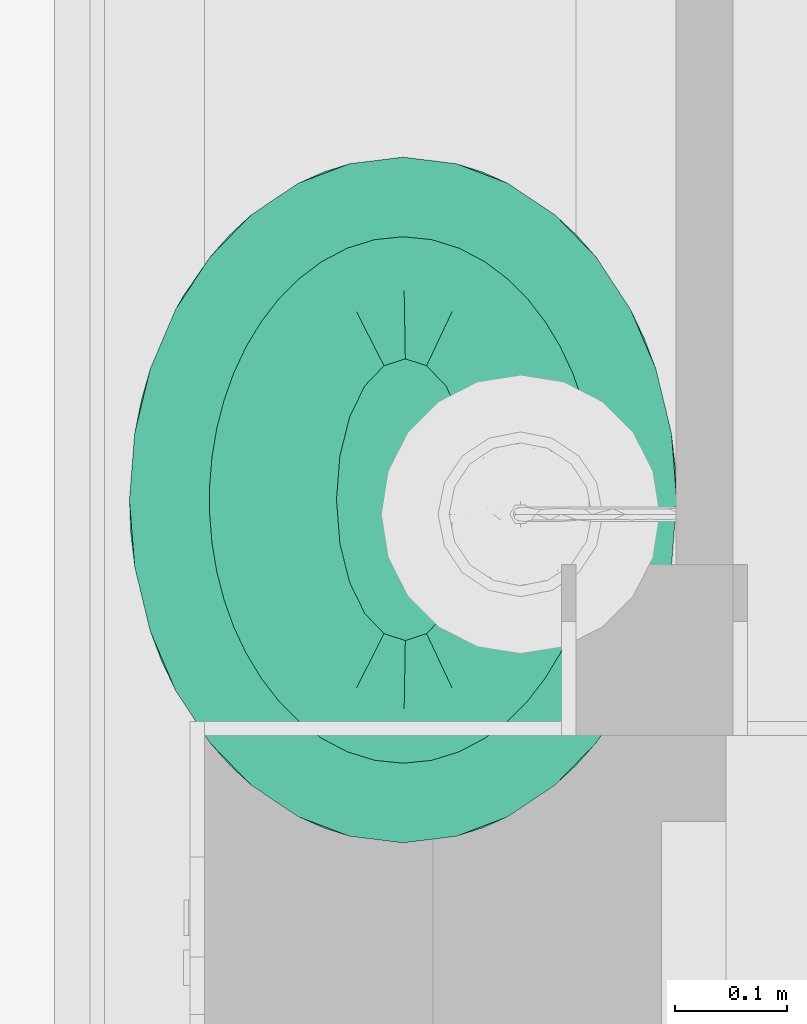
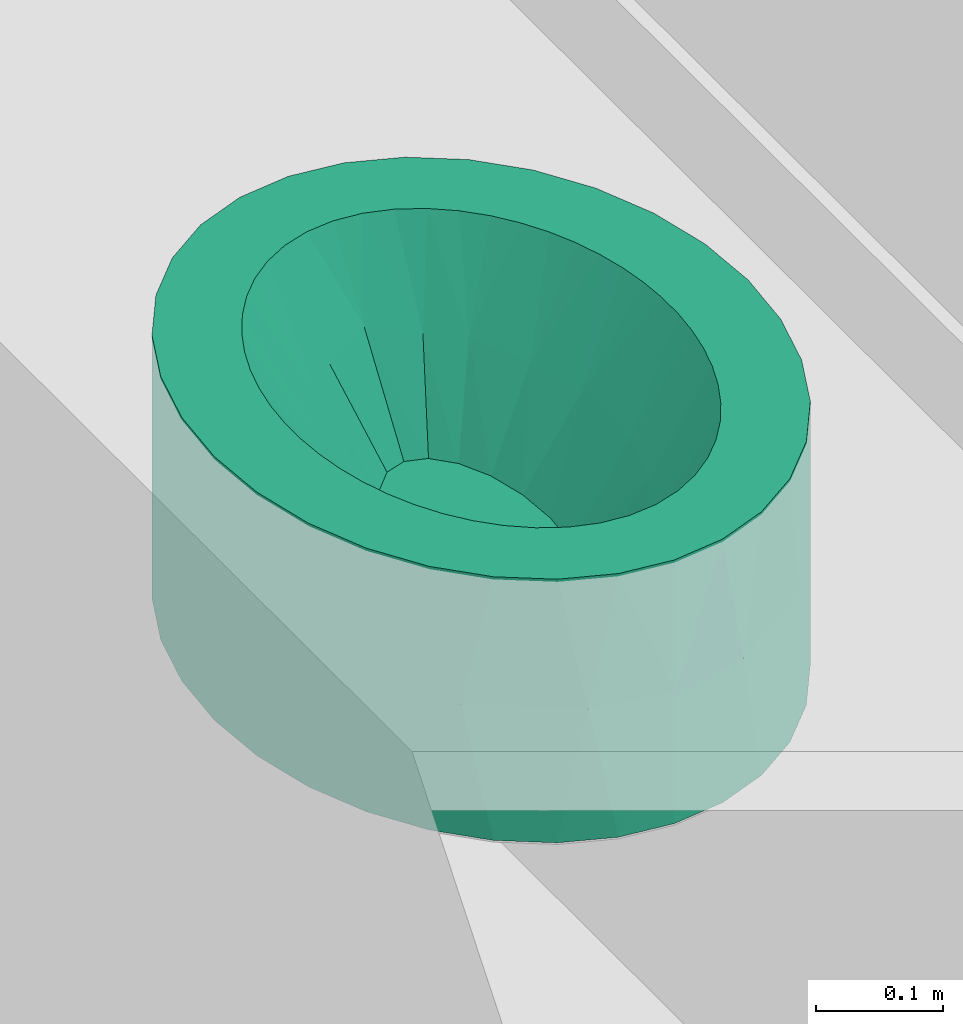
# One storey, part 53 of 81: 1 flow terminal.
"""IFC2X3 building model written with IfcOpenShell, lengths in feet."""

from ifc_helpers import new_model, entity, si_unit, converted_unit, derived_unit, direction, frame, origin, place, context, subcontext, project, spatial, faceted_brep, source, transform, mapped, material, type_object, type_shapes, element, save


model = new_model("IFC2X3")

# Units and contexts
model_context = context("Model", 3, precision=0.0001, world=origin(), true_north=direction((6.12303176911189e-17, 1.0)))
body_context = subcontext(model_context, "Body", "Model", "MODEL_VIEW")
ifc_project = project(units=[converted_unit("LENGTHUNIT", "FOOT", entity("IfcRatioMeasure", 0.3048), si_unit("LENGTHUNIT", "METRE"), dimensions=[1, 0, 0, 0, 0, 0, 0]), converted_unit("AREAUNIT", "SQUARE FOOT", entity("IfcRatioMeasure", 0.09290304), si_unit("AREAUNIT", "SQUARE_METRE"), dimensions=[2, 0, 0, 0, 0, 0, 0]), converted_unit("VOLUMEUNIT", "CUBIC FOOT", entity("IfcRatioMeasure", 0.028316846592), si_unit("VOLUMEUNIT", "CUBIC_METRE"), dimensions=[3, 0, 0, 0, 0, 0, 0]), converted_unit("PLANEANGLEUNIT", "DEGREE", entity("IfcRatioMeasure", 0.0174532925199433), si_unit("PLANEANGLEUNIT", "RADIAN"), dimensions=[0, 0, 0, 0, 0, 0, 0]), si_unit("MASSUNIT", "GRAM", prefix="KILO"), derived_unit("MASSDENSITYUNIT", [(si_unit("MASSUNIT", "GRAM", prefix="KILO"), 1), (si_unit("LENGTHUNIT", "METRE"), -3)]), derived_unit("MOMENTOFINERTIAUNIT", [(si_unit("LENGTHUNIT", "METRE"), 4)]), si_unit("TIMEUNIT", "SECOND"), si_unit("FREQUENCYUNIT", "HERTZ"), si_unit("THERMODYNAMICTEMPERATUREUNIT", "DEGREE_CELSIUS"), derived_unit("THERMALTRANSMITTANCEUNIT", [(si_unit("MASSUNIT", "GRAM", prefix="KILO"), 1), (si_unit("THERMODYNAMICTEMPERATUREUNIT", "KELVIN"), -1), (si_unit("TIMEUNIT", "SECOND"), -3)]), derived_unit("VOLUMETRICFLOWRATEUNIT", [(si_unit("LENGTHUNIT", "METRE"), 3), (si_unit("TIMEUNIT", "SECOND"), -1)]), si_unit("ELECTRICCURRENTUNIT", "AMPERE"), si_unit("ELECTRICVOLTAGEUNIT", "VOLT"), si_unit("POWERUNIT", "WATT"), si_unit("FORCEUNIT", "NEWTON"), si_unit("ILLUMINANCEUNIT", "LUX"), si_unit("LUMINOUSFLUXUNIT", "LUMEN"), si_unit("LUMINOUSINTENSITYUNIT", "CANDELA"), derived_unit("USERDEFINED", [(si_unit("MASSUNIT", "GRAM", prefix="KILO"), -1), (si_unit("LENGTHUNIT", "METRE"), -2), (si_unit("TIMEUNIT", "SECOND"), 3), (si_unit("LUMINOUSFLUXUNIT", "LUMEN"), 1)]), derived_unit("LINEARVELOCITYUNIT", [(si_unit("LENGTHUNIT", "METRE"), 1), (si_unit("TIMEUNIT", "SECOND"), -1)]), si_unit("PRESSUREUNIT", "PASCAL"), derived_unit("USERDEFINED", [(si_unit("LENGTHUNIT", "METRE"), -2), (si_unit("MASSUNIT", "GRAM", prefix="KILO"), 1), (si_unit("TIMEUNIT", "SECOND"), -2)]), derived_unit("LINEARFORCEUNIT", [(si_unit("MASSUNIT", "GRAM", prefix="KILO"), 1), (si_unit("LENGTHUNIT", "METRE"), 1), (si_unit("TIMEUNIT", "SECOND"), -2), (si_unit("LENGTHUNIT", "METRE"), -1)]), derived_unit("PLANARFORCEUNIT", [(si_unit("MASSUNIT", "GRAM", prefix="KILO"), 1), (si_unit("LENGTHUNIT", "METRE"), 1), (si_unit("TIMEUNIT", "SECOND"), -2), (si_unit("LENGTHUNIT", "METRE"), -2)])], contexts=[model_context])

# Site, building, storey
site_placement = place(None, origin())
site = spatial("IfcSite", under=ifc_project, at=site_placement, Name="Default", CompositionType="ELEMENT")
building_placement = place(site_placement, origin())
building = spatial("IfcBuilding", under=site, at=building_placement, CompositionType="ELEMENT")
storey_placement = place(building_placement, origin())
storey = spatial("IfcBuildingStorey", under=building, at=storey_placement, Name="First floor", CompositionType="ELEMENT", Elevation=0.0)

# Flow terminal
ifc_material = material(Name="Default New Material")
distribution_element_type = type_object("IfcDistributionElementType", Name="Plumbing Fixtures 1:Plumbing Fixtures 1", material=ifc_material)
shared_shape = source(origin(), body_context, "Body", "Brep", [
    faceted_brep([(1.54058064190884, 1.38791726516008, 0.0), (1.58599411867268, 1.20032415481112, 0.0), (1.60132837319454, 1.00523383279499, 0.0), (1.58599411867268, 0.810143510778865, 0.0), (1.54058064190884, 0.622550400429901, 0.0), (1.46683315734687, 0.449663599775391, 0.0), (1.36758573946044, 0.298127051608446, 0.0), (1.24665241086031, 0.173764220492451, 0.0), (1.1086805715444, 0.0813543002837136, 0.0), (0.95897240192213, 0.0244485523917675, 0.0), (0.803281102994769, 0.00523383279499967, 0.0), (0.647589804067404, 0.0244485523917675, 0.0), (0.497881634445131, 0.0813543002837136, 0.0), (0.359909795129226, 0.173764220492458, 0.0), (0.238976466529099, 0.298127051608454, 0.0), (0.139729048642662, 0.449663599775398, 0.0), (0.0659815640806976, 0.622550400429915, 0.0), (0.020568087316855, 0.810143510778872, 0.0), (0.00523383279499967, 1.005233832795, 0.0), (0.0205680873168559, 1.20032415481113, 0.0), (0.0659815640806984, 1.38791726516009, 0.0), (0.139729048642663, 1.56080406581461, 0.0), (0.238976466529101, 1.71234061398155, 0.0), (0.359909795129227, 1.83670344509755, 0.0), (0.497881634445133, 1.92911336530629, 0.0), (0.647589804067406, 1.98601911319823, 0.0), (0.803281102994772, 2.005233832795, 0.0), (0.958972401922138, 1.98601911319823, 0.0), (1.10868057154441, 1.92911336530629, 0.0), (1.24665241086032, 1.83670344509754, 0.0), (1.36758573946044, 1.71234061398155, 0.0), (1.46683315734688, 1.56080406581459, 0.0), (1.54058064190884, 1.38791726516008, 0.833333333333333), (1.46683315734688, 1.56080406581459, 0.833333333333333), (1.29816721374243, 1.37491491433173, 0.833333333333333), (1.32639603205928, 1.29570318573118, 0.833333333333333), (1.34739103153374, 1.21423218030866, 0.833333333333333), (1.58599411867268, 1.20032415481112, 0.833333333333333), (1.2625222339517, 1.45104954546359, 0.833333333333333), (1.21921738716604, 1.5230985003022, 0.833333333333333), (1.36758573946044, 1.71234061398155, 0.833333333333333), (1.16803241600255, 1.5898168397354, 0.833333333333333), (1.24665241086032, 1.83670344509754, 0.833333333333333), (1.108818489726, 1.64958036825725, 0.833333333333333), (1.04169804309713, 1.70031101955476, 0.833333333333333), (1.10868057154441, 1.92911336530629, 0.833333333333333), (0.967323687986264, 1.73951364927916, 0.833333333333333), (0.958972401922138, 1.98601911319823, 0.833333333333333), (0.887168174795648, 1.7645232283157, 0.833333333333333), (0.803281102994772, 2.005233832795, 0.833333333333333), (0.80369452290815, 1.77315215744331, 0.833333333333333), (0.720220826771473, 1.76452311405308, 0.833333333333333), (0.647589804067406, 1.98601911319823, 0.833333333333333), (0.64006528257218, 1.73951371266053, 0.833333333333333), (0.497881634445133, 1.92911336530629, 0.833333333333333), (0.565691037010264, 1.70031099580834, 0.833333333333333), (0.359909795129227, 1.83670344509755, 0.833333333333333), (0.498570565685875, 1.6495803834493, 0.833333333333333), (0.439356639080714, 1.58981686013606, 0.833333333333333), (0.238976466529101, 1.71234061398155, 0.833333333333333), (0.388171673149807, 1.52309851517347, 0.833333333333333), (0.139729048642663, 1.56080406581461, 0.833333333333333), (0.34486681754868, 1.45104955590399, 0.833333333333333), (0.309221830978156, 1.37491491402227, 0.833333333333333), (0.0659815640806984, 1.38791726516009, 0.833333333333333), (0.280993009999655, 1.29570317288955, 0.833333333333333), (0.259998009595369, 1.21423215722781, 0.833333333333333), (0.0205680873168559, 1.20032415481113, 0.833333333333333), (0.246082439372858, 1.1312309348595, 0.833333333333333), (0.239153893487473, 1.0473602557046, 0.833333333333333), (0.00523383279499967, 1.005233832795, 0.833333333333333), (0.239153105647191, 0.963239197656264, 0.833333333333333), (0.020568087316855, 0.810143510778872, 0.833333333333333), (0.246079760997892, 0.879370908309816, 0.833333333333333), (0.259995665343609, 0.796359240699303, 0.833333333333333), (0.0659815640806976, 0.622550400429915, 0.833333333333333), (0.280995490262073, 0.714869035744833, 0.833333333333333), (0.309230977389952, 0.635643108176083, 0.833333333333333), (0.139729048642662, 0.449663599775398, 0.833333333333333), (0.344878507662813, 0.559508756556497, 0.833333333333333), (0.388179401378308, 0.48747040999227, 0.833333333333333), (0.238976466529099, 0.298127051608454, 0.833333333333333), (0.439349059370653, 0.420772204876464, 0.833333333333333), (0.359909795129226, 0.173764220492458, 0.833333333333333), (0.498546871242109, 0.36102080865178, 0.833333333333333), (0.565665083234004, 0.310285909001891, 0.833333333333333), (0.497881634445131, 0.0813543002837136, 0.833333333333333), (0.64005681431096, 0.271070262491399, 0.833333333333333), (0.647589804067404, 0.0244485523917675, 0.833333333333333), (0.720244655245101, 0.246052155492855, 0.833333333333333), (0.803281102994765, 0.00523383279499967, 0.833333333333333), (0.803694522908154, 0.237428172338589, 0.833333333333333), (0.887144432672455, 0.246052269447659, 0.833333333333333), (0.95897240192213, 0.0244485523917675, 0.833333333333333), (0.967332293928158, 0.27107019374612, 0.833333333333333), (1.1086805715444, 0.0813543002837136, 0.833333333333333), (1.04172392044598, 0.310285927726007, 0.833333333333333), (1.24665241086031, 0.173764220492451, 0.833333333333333), (1.10884216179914, 0.361020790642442, 0.833333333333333), (1.16803997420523, 0.42077218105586, 0.833333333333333), (1.36758573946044, 0.298127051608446, 0.833333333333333), (1.2192096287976, 0.487470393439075, 0.833333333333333), (1.46683315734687, 0.449663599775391, 0.833333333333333), (1.26251053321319, 0.559508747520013, 0.833333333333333), (1.29815807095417, 0.635643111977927, 0.833333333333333), (1.54058064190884, 0.622550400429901, 0.833333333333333), (1.32639356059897, 0.714869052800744, 0.833333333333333), (1.34739338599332, 0.796359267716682, 0.833333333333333), (1.58599411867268, 0.810143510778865, 0.833333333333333), (1.36130928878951, 0.879370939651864, 0.833333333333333), (1.36823594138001, 0.963239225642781, 0.833333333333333), (1.60132837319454, 1.00523383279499, 0.833333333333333), (1.36823515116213, 1.04736028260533, 0.833333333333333), (1.36130660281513, 1.13123096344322, 0.833333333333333), (0.803281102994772, 2.005233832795, 0.404505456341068), (0.803281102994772, 2.005233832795, 0.416666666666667), (1.30955693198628, 1.77824428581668, 0.416666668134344), (1.03494199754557, 1.9621741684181, 0.416666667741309), (1.03494201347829, 0.0482935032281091, 0.416666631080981), (0.803281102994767, 0.00523383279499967, 0.404505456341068), (1.50709596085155, 1.47663056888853, 0.41666666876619), (1.30955691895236, 0.232223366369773, 0.416666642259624), (1.56696472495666, 0.714949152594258, 0.416666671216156), (1.44526132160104, 0.411198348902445, 0.416666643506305), (1.59748555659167, 1.10325098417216, 0.416666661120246), (0.803281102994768, 0.00523383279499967, 0.416666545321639), (0.297005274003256, 0.232223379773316, 0.416666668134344), (0.571620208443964, 0.0482934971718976, 0.416666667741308), (0.571620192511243, 1.96217416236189, 0.416666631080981), (0.099466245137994, 0.533837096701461, 0.416666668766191), (0.297005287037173, 1.77824429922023, 0.416666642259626), (0.0395974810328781, 1.29551851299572, 0.416666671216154), (0.1613008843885, 1.59926931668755, 0.416666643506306), (0.0090766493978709, 0.907216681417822, 0.416666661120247), (0.647433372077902, 1.24759255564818, 0.28645833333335), (0.618909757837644, 1.13307681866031, 0.28645833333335), (0.609081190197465, 1.00613514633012, 0.28645833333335), (0.618909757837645, 0.879193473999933, 0.28645833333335), (0.647433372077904, 0.764677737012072, 0.28645833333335), (0.691859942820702, 0.673797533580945, 0.28645833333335), (0.747840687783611, 0.615448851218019, 0.28645833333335), (0.80989582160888, 0.59534326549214, 0.28645833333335), (0.871950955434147, 0.615448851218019, 0.28645833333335), (0.927931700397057, 0.673797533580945, 0.28645833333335), (0.972358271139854, 0.764677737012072, 0.28645833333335), (1.00088188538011, 0.879193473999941, 0.28645833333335), (1.01071045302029, 1.00613514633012, 0.28645833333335), (1.00088188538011, 1.13307681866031, 0.28645833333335), (0.972358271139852, 1.24759255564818, 0.28645833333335), (0.927931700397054, 1.3384727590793, 0.28645833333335), (0.871950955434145, 1.39682144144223, 0.28645833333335), (0.809895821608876, 1.41692702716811, 0.28645833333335), (0.747840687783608, 1.39682144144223, 0.28645833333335), (0.691859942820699, 1.3384727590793, 0.28645833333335), (0.438743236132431, 0.880484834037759, 0.550941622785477), (0.485054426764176, 0.698607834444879, 0.554130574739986), (0.485051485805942, 1.31281599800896, 0.554123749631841), (0.57564028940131, 0.535507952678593, 0.562572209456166), (0.438742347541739, 1.1309809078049, 0.55094564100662), (0.66800546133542, 0.458130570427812, 0.559167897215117), (0.575648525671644, 1.47592422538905, 0.562577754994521), (0.66801665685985, 1.55330615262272, 0.559170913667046), (0.806419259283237, 0.39468946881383, 0.59304653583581), (0.806433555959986, 0.395514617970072, 0.591785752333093), (0.806419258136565, 1.61663346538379, 0.593046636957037), (0.806433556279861, 1.61581212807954, 0.59178572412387), (1.17505097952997, 1.13098091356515, 0.550945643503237), (1.12866976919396, 1.31281597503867, 0.554123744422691), (1.12866666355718, 0.69860781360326, 0.554130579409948), (1.0378810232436, 1.47592420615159, 0.562577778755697), (1.17505018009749, 0.880484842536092, 0.550941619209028), (0.945590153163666, 1.55330617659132, 0.559170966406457), (1.03788932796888, 0.535507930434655, 0.562572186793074), (0.945601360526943, 0.458130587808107, 0.559167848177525)], [[[0, 1, 2, 3, 4, 5, 6, 7, 8, 9, 10, 11, 12, 13, 14, 15, 16, 17, 18, 19, 20, 21, 22, 23, 24, 25, 26, 27, 28, 29, 30, 31]], [[32, 33, 34]], [[32, 34, 35]], [[32, 35, 36]], [[36, 37, 32]], [[38, 34, 33]], [[39, 38, 33]], [[39, 33, 40]], [[39, 40, 41]], [[41, 40, 42]], [[41, 42, 43]], [[44, 43, 42]], [[44, 42, 45]], [[46, 44, 45]], [[45, 47, 46]], [[48, 46, 47]], [[49, 48, 47]], [[48, 49, 50]], [[50, 49, 51]], [[51, 49, 52]], [[52, 53, 51]], [[53, 52, 54]], [[55, 53, 54]], [[55, 54, 56]], [[55, 56, 57]], [[58, 57, 56]], [[58, 56, 59]], [[59, 60, 58]], [[60, 59, 61]], [[62, 60, 61]], [[63, 62, 61]], [[61, 64, 63]], [[63, 64, 65]], [[65, 64, 66]], [[64, 67, 66]], [[67, 68, 66]], [[68, 67, 69]], [[69, 67, 70]], [[70, 71, 69]], [[71, 70, 72]], [[71, 72, 73]], [[74, 73, 72]], [[74, 72, 75]], [[76, 74, 75]], [[77, 76, 75]], [[78, 77, 75]], [[79, 77, 78]], [[78, 80, 79]], [[78, 81, 80]], [[82, 80, 81]], [[83, 82, 81]], [[84, 82, 83]], [[85, 84, 83]], [[85, 83, 86]], [[87, 85, 86]], [[87, 86, 88]], [[87, 88, 89]], [[90, 89, 88]], [[90, 91, 89]], [[90, 92, 91]], [[90, 93, 92]], [[92, 93, 94]], [[95, 94, 93]], [[95, 96, 94]], [[96, 95, 97]], [[98, 96, 97]], [[99, 98, 97]], [[99, 97, 100]], [[99, 100, 101]], [[100, 102, 101]], [[101, 102, 103]], [[103, 102, 104]], [[102, 105, 104]], [[104, 105, 106]], [[105, 107, 106]], [[108, 107, 105]], [[109, 107, 108]], [[110, 109, 108]], [[108, 111, 110]], [[37, 112, 111]], [[111, 112, 110]], [[36, 113, 37]], [[112, 37, 113]], [[27, 26, 114, 115]], [[115, 49, 47]], [[116, 117, 45, 42]], [[118, 93, 119]], [[40, 33, 120]], [[121, 100, 97]], [[111, 108, 122]], [[122, 108, 105]], [[105, 102, 123]], [[123, 122, 105]], [[124, 3, 2]], [[100, 121, 123]], [[95, 118, 121]], [[111, 122, 124]], [[118, 8, 7, 121]], [[119, 10, 9]], [[93, 90, 125, 119]], [[118, 95, 93]], [[119, 9, 118]], [[5, 4, 123]], [[95, 121, 97]], [[6, 123, 121]], [[7, 6, 121]], [[28, 117, 116, 29]], [[0, 120, 1]], [[123, 4, 122]], [[123, 102, 100]], [[122, 4, 3]], [[31, 30, 116, 120]], [[124, 122, 3]], [[33, 32, 120]], [[124, 120, 32]], [[40, 120, 116]], [[117, 47, 45]], [[42, 40, 116]], [[32, 37, 124]], [[1, 124, 2]], [[117, 115, 47]], [[120, 124, 1]], [[31, 120, 0]], [[8, 118, 9]], [[30, 29, 116]], [[27, 117, 28]], [[27, 115, 117]], [[37, 111, 124]], [[5, 123, 6]], [[11, 10, 119, 125]], [[125, 90, 88]], [[126, 127, 86, 83]], [[128, 52, 114]], [[81, 78, 129]], [[130, 59, 56]], [[70, 67, 131]], [[131, 67, 64]], [[64, 61, 132]], [[132, 131, 64]], [[133, 19, 18]], [[59, 130, 132]], [[54, 128, 130]], [[70, 131, 133]], [[128, 24, 23, 130]], [[114, 26, 25]], [[52, 49, 115, 114]], [[128, 54, 52]], [[114, 25, 128]], [[21, 20, 132]], [[54, 130, 56]], [[22, 132, 130]], [[23, 22, 130]], [[12, 127, 126, 13]], [[16, 129, 17]], [[132, 20, 131]], [[132, 61, 59]], [[131, 20, 19]], [[15, 14, 126]], [[133, 131, 19]], [[78, 75, 129]], [[133, 129, 75]], [[81, 129, 126]], [[127, 88, 86]], [[83, 81, 126]], [[75, 72, 133]], [[17, 133, 18]], [[127, 125, 88]], [[129, 133, 17]], [[15, 129, 16]], [[24, 128, 25]], [[126, 129, 15]], [[14, 13, 126]], [[11, 127, 12]], [[11, 125, 127]], [[72, 70, 133]], [[21, 132, 22]], [[134, 135, 136, 137, 138, 139, 140, 141, 142, 143, 144, 145, 146, 147, 148, 149, 150, 151, 152, 153]], [[154, 155, 137]], [[134, 156, 135]], [[155, 80, 157]], [[77, 155, 76]], [[155, 79, 80]], [[154, 136, 158]], [[74, 154, 73]], [[159, 157, 85]], [[154, 76, 155]], [[158, 156, 65]], [[80, 82, 157]], [[154, 74, 76]], [[79, 155, 77]], [[57, 160, 55]], [[152, 161, 153]], [[137, 155, 138]], [[89, 159, 87]], [[154, 137, 136]], [[159, 140, 139]], [[140, 162, 163, 141]], [[87, 159, 85]], [[89, 162, 159]], [[85, 157, 84]], [[73, 154, 71]], [[84, 157, 82]], [[138, 155, 157]], [[157, 159, 139]], [[134, 153, 160]], [[138, 157, 139]], [[164, 50, 51]], [[158, 136, 135]], [[161, 55, 160]], [[69, 71, 158]], [[89, 91, 162]], [[60, 160, 58]], [[156, 60, 62]], [[160, 60, 156]], [[161, 164, 51]], [[55, 161, 53]], [[161, 51, 53]], [[160, 57, 58]], [[152, 151, 165, 164]], [[66, 158, 65]], [[69, 158, 68]], [[154, 158, 71]], [[158, 66, 68]], [[63, 65, 156]], [[162, 140, 159]], [[156, 62, 63]], [[156, 158, 135]], [[134, 160, 156]], [[161, 160, 153]], [[164, 161, 152]], [[166, 167, 147]], [[144, 168, 145]], [[167, 39, 169]], [[34, 167, 35]], [[167, 38, 39]], [[166, 146, 170]], [[36, 166, 113]], [[171, 169, 44]], [[167, 166, 35]], [[170, 168, 106]], [[39, 41, 169]], [[36, 35, 166]], [[38, 167, 34]], [[98, 172, 96]], [[142, 173, 143]], [[147, 167, 148]], [[48, 171, 46]], [[166, 147, 146]], [[171, 150, 149]], [[150, 165, 151]], [[46, 171, 44]], [[48, 165, 171]], [[44, 169, 43]], [[113, 166, 112]], [[43, 169, 41]], [[148, 167, 169]], [[169, 171, 149]], [[144, 143, 172]], [[148, 169, 149]], [[92, 163, 162, 91]], [[170, 146, 145]], [[173, 96, 172]], [[112, 166, 110]], [[48, 50, 164, 165]], [[101, 172, 99]], [[168, 101, 103]], [[172, 101, 168]], [[173, 163, 92]], [[96, 173, 94]], [[173, 92, 94]], [[172, 98, 99]], [[163, 142, 141]], [[107, 170, 106]], [[110, 170, 109]], [[170, 110, 166]], [[170, 107, 109]], [[104, 106, 168]], [[165, 150, 171]], [[168, 103, 104]], [[168, 170, 145]], [[144, 172, 168]], [[173, 172, 143]], [[163, 173, 142]]]),
])
type_shapes(distribution_element_type, [shared_shape])
flow_terminal_placement = place(storey_placement, frame((-6.536483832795, 37.0155995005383, 1.92187499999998)))
element("IfcFlowTerminal", 1, at=flow_terminal_placement, inside=storey, type_object=distribution_element_type, material=ifc_material, Name="Plumbing Fixtures 1:Plumbing Fixtures 1", ObjectType="Plumbing Fixtures 1:Plumbing Fixtures 1", context=body_context, shape_type="MappedRepresentation", body=[
    mapped(shared_shape, transform((0.0, 0.0, 0.0), scale=1.0)),
])

save(model, "model.ifc")
